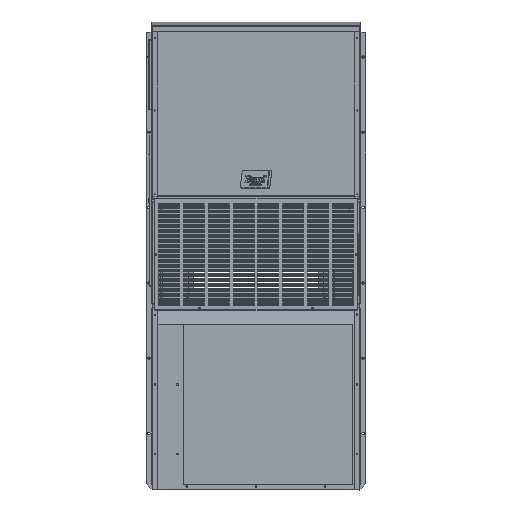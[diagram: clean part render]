
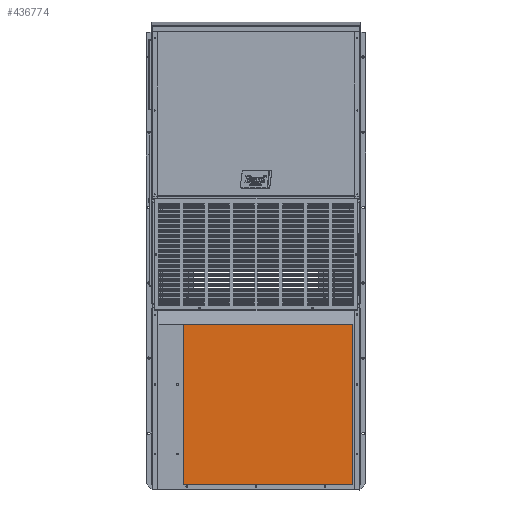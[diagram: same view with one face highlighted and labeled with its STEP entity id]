
A CAD part, top view. The second image highlights one B-rep face of the part: STEP entity #436774.
In plain terms, the highlighted planar face has unit normal (0, 0, 1).
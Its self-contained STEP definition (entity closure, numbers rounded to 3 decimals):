
#12533 = CARTESIAN_POINT ( 'NONE',  ( -28.081, -73.703, 16.411 ) ) ;
#16418 = ORIENTED_EDGE ( 'NONE', *, *, #59808, .T. ) ;
#55336 = ORIENTED_EDGE ( 'NONE', *, *, #309527, .T. ) ;
#59808 = EDGE_CURVE ( 'NONE', #113023, #82764, #191697, .T. ) ;
#72392 = EDGE_CURVE ( 'NONE', #323578, #320035, #442803, .T. ) ;
#82764 = VERTEX_POINT ( 'NONE', #341347 ) ;
#91910 = CARTESIAN_POINT ( 'NONE',  ( -28.081, -45.634, 16.411 ) ) ;
#94436 = VECTOR ( 'NONE', #127722, 39.37 ) ;
#100688 = CARTESIAN_POINT ( 'NONE',  ( -33.349, -74.383, 16.411 ) ) ;
#102791 = CARTESIAN_POINT ( 'NONE',  ( -28.081, -45.634, 16.411 ) ) ;
#113023 = VERTEX_POINT ( 'NONE', #117778 ) ;
#117778 = CARTESIAN_POINT ( 'NONE',  ( -28.081, -73.703, 16.411 ) ) ;
#127722 = DIRECTION ( 'NONE',  ( 0., -1., 0. ) ) ;
#129445 = CARTESIAN_POINT ( 'NONE',  ( -1.078, -73.703, 16.411 ) ) ;
#136540 = DIRECTION ( 'NONE',  ( 0., -1., 0. ) ) ;
#154364 = CARTESIAN_POINT ( 'NONE',  ( -1.078, -45.634, 16.411 ) ) ;
#171961 = ORIENTED_EDGE ( 'NONE', *, *, #72392, .T. ) ;
#184039 = AXIS2_PLACEMENT_3D ( 'NONE', #100688, #349929, #136540 ) ;
#187458 = VECTOR ( 'NONE', #201239, 39.37 ) ;
#189250 = LINE ( 'NONE', #91910, #94436 ) ;
#191697 = LINE ( 'NONE', #12533, #286397 ) ;
#201239 = DIRECTION ( 'NONE',  ( 0., 1., 0. ) ) ;
#262122 = DIRECTION ( 'NONE',  ( 1., 0., 0. ) ) ;
#264361 = VECTOR ( 'NONE', #402186, 39.37 ) ;
#281914 = EDGE_CURVE ( 'NONE', #82764, #323578, #282289, .T. ) ;
#282289 = LINE ( 'NONE', #129445, #187458 ) ;
#286397 = VECTOR ( 'NONE', #262122, 39.37 ) ;
#308494 = EDGE_LOOP ( 'NONE', ( #16418, #441314, #171961, #55336 ) ) ;
#309527 = EDGE_CURVE ( 'NONE', #320035, #113023, #189250, .T. ) ;
#320035 = VERTEX_POINT ( 'NONE', #102791 ) ;
#323578 = VERTEX_POINT ( 'NONE', #422956 ) ;
#341347 = CARTESIAN_POINT ( 'NONE',  ( -1.078, -73.703, 16.411 ) ) ;
#349929 = DIRECTION ( 'NONE',  ( 0., 0., 1. ) ) ;
#379552 = FACE_OUTER_BOUND ( 'NONE', #308494, .T. ) ;
#381252 = PLANE ( 'NONE',  #184039 ) ;
#402186 = DIRECTION ( 'NONE',  ( -1., 0., 0. ) ) ;
#422956 = CARTESIAN_POINT ( 'NONE',  ( -1.078, -45.634, 16.411 ) ) ;
#436774 = ADVANCED_FACE ( 'NONE', ( #379552 ), #381252, .T. ) ;
#441314 = ORIENTED_EDGE ( 'NONE', *, *, #281914, .T. ) ;
#442803 = LINE ( 'NONE', #154364, #264361 ) ;
